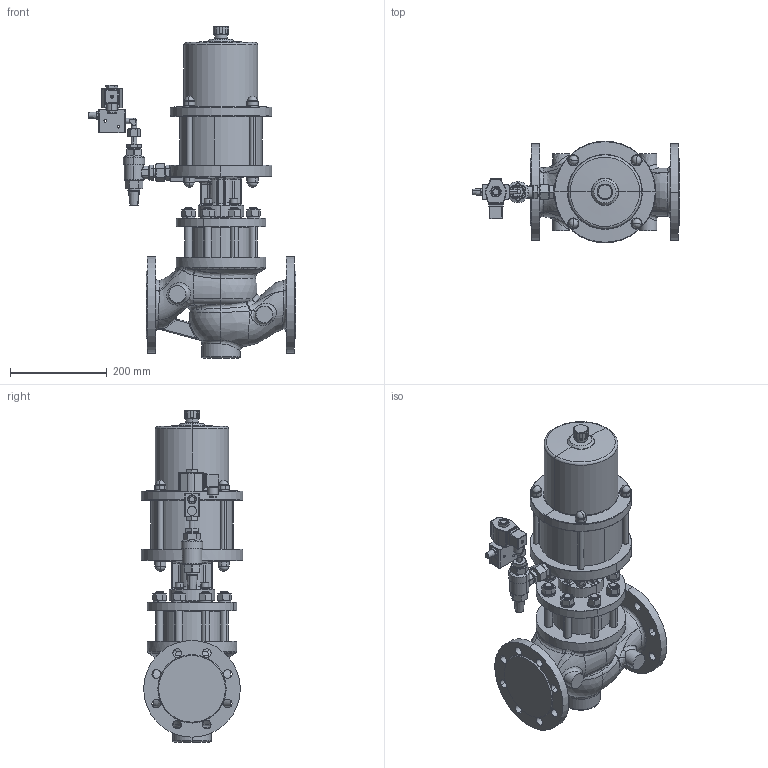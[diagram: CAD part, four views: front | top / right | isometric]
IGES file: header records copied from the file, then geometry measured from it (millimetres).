
Global section: file name: No Iges File Name specified; native system: AutoDesk Inventor R12.0; preprocessor: AutoDesk Inventor Iges Exporter R12.0; date: 20101115.133652; units: millimetre
Bounding box: 429.8 x 210 x 687.05 mm (x, y, z)
Volume: 14044362.5 mm3; surface area: 800995 mm2
Topology: 2 solids, 2 shells, 1599 faces, 4139 edges, 2579 vertices
Faces by surface type: plane 618, bspline 288, cylinder 286, cone 178, revolution 145, torus 49, sphere 35
